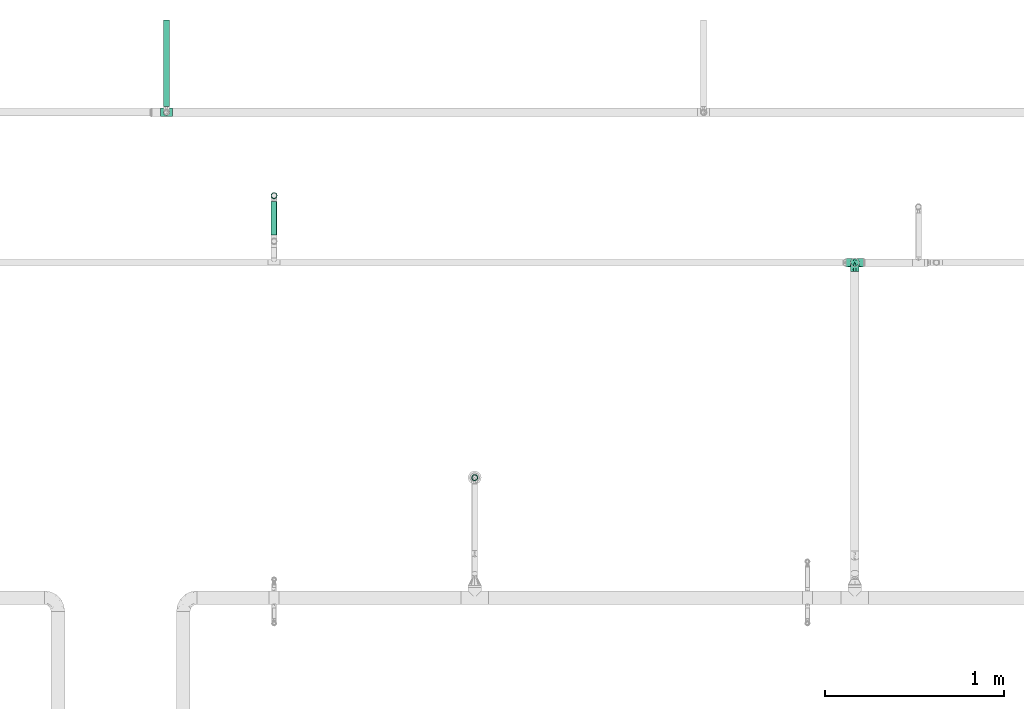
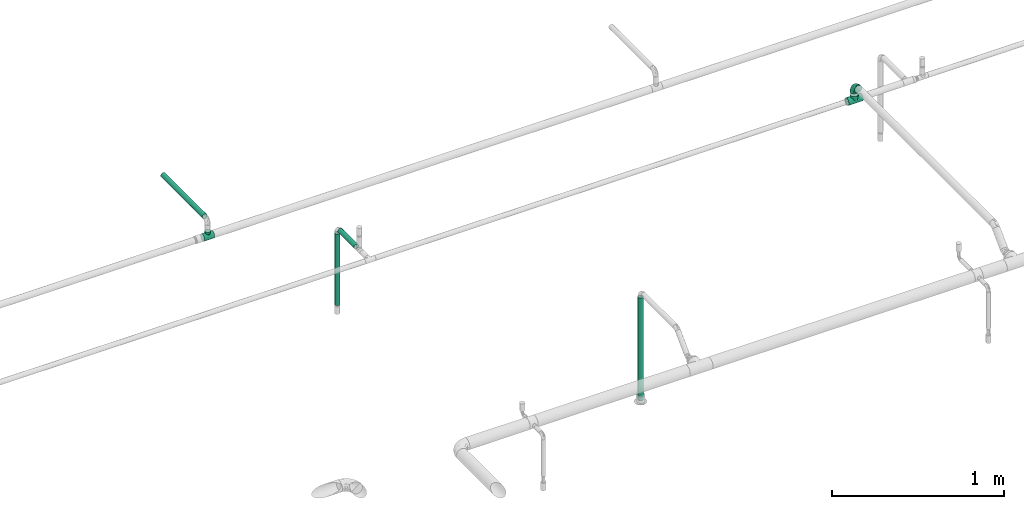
# One storey, part 7 of 51: 4 flow segments, 3 flow fittings.
"""IFC2X3 building model written with IfcOpenShell, lengths in millimetres."""

from ifc_helpers import new_model, entity, si_unit, converted_unit, derived_unit, direction, frame, origin_with_axes, origin_2d_with_axis, place, context, subcontext, project, spatial, hollow_circle, extrude, open_shell, surface_model, source, transform, mapped, type_object, element, save


model = new_model("IFC2X3")

# Units and contexts
model_context = context("Model", 3, precision=0.01, world=frame((0.0, 4.29681676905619e-09, 0.0)), true_north=direction((4.01073788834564e-13, 1.0)))
plan_context = context("Plan", 3, precision=0.01, world=frame((0.0, 4.29681676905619e-09, 0.0)), true_north=direction((4.01073788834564e-13, 1.0)))
body_context = subcontext(model_context, "Body", "Model", "MODEL_VIEW")
ifc_project = project(units=[converted_unit("PLANEANGLEUNIT", "DEGREE", entity("IfcPositiveLengthMeasure", 0.0174532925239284), si_unit("PLANEANGLEUNIT", "RADIAN"), dimensions=[0, 0, 0, 0, 0, 0, 0]), si_unit("AREAUNIT", "SQUARE_METRE"), si_unit("LENGTHUNIT", "METRE", prefix="MILLI"), si_unit("MASSUNIT", "GRAM", prefix="KILO"), si_unit("POWERUNIT", "WATT"), si_unit("PRESSUREUNIT", "PASCAL"), si_unit("FORCEUNIT", "NEWTON", prefix="KILO"), si_unit("ELECTRICVOLTAGEUNIT", "VOLT"), si_unit("ELECTRICCURRENTUNIT", "AMPERE"), si_unit("THERMODYNAMICTEMPERATUREUNIT", "DEGREE_CELSIUS"), si_unit("TIMEUNIT", "SECOND"), si_unit("VOLUMEUNIT", "CUBIC_METRE"), derived_unit("LINEARVELOCITYUNIT", [(si_unit("LENGTHUNIT", "METRE"), 1), (si_unit("TIMEUNIT", "SECOND"), -1)]), derived_unit("VOLUMETRICFLOWRATEUNIT", [(si_unit("VOLUMEUNIT", "CUBIC_METRE"), 1), (si_unit("TIMEUNIT", "SECOND"), -1)]), derived_unit("THERMALTRANSMITTANCEUNIT", [(si_unit("POWERUNIT", "WATT"), 1), (si_unit("THERMODYNAMICTEMPERATUREUNIT", "KELVIN"), -1), (si_unit("AREAUNIT", "SQUARE_METRE"), -1)]), derived_unit("SOUNDPRESSUREUNIT", [(si_unit("PRESSUREUNIT", "PASCAL"), 1)])], contexts=[model_context, plan_context])

# Site, building, storey
site_placement = place(None, frame((0.0, -4.29681676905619e-09, 0.0), z_axis=(0.0, 0.0, 1.0), x_axis=(1.0, 0.0, 0.0)))
site = spatial("IfcSite", under=ifc_project, at=site_placement, Name="ENGM", CompositionType="ELEMENT")
building_placement = place(site_placement, frame((0.0, 4.29681676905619e-09, 0.0), z_axis=(0.0, 0.0, 1.0), x_axis=(1.0, 0.0, 0.0)))
building = spatial("IfcBuilding", under=site, at=building_placement, Name="TH", CompositionType="ELEMENT")
storey_placement = place(building_placement, frame((0.0, 0.0, 210200.0), z_axis=(0.0, 0.0, 1.0), x_axis=(1.0, 0.0, 0.0)))
storey = spatial("IfcBuildingStorey", under=building, at=storey_placement, Name="Nivå F - 0,7 m", CompositionType="ELEMENT", Elevation=210200.0)

# Flow fittings
pipe_fitting_type_1 = type_object("IfcPipeFittingType", Name="magi_pipe_fe_elbow_short_001", PredefinedType="BEND")
shared_shape_1 = source(origin_with_axes(), body_context, "Body", "SurfaceModel", [
    surface_model("IfcShellBasedSurfaceModel", [(-48.4, 6.26342, -23.37541), (-48.4, 0.0, -24.2), (-48.4, 17.11198, -17.11198), (-48.4, 12.1, -20.95781), (-48.4, 23.37541, -6.26342), (-48.4, 20.95781, -12.1), (-48.4, -12.1, -20.95781), (-48.4, -17.11198, -17.11198), (-48.4, -20.95781, -12.1), (-48.4, -6.26342, -23.37541), (-48.4, -23.37541, -6.26342), (-48.4, -24.2, 0.0), (-48.4, -23.37541, 6.26342), (-48.4, 23.37541, 6.26342), (-48.4, 6.26342, 23.37541), (-48.4, 20.95781, 12.1), (-48.4, 17.11198, 17.11198), (-48.4, 12.1, 20.95781), (-48.4, -12.1, 20.95781), (-48.4, -20.95781, 12.1), (-48.4, -17.11198, 17.11198), (-48.4, -6.26342, 23.37541), (-48.4, 0.0, 24.2), (-48.4, 24.2, 0.0), (-17.11198, 48.4, -17.11198), (0.0, 48.4, -24.2), (-6.26342, 48.4, -23.37541), (-12.1, 48.4, -20.95781), (-20.95781, 48.4, -12.1), (-23.37541, 48.4, -6.26342), (12.1, 48.4, -20.95781), (20.95781, 48.4, -12.1), (17.11198, 48.4, -17.11198), (6.26342, 48.4, -23.37541), (23.37541, 48.4, -6.26342), (23.37541, 48.4, 6.26342), (24.2, 48.4, 0.0), (-23.37541, 48.4, 6.26342), (-6.26342, 48.4, 23.37541), (-17.11198, 48.4, 17.11198), (-20.95781, 48.4, 12.1), (-12.1, 48.4, 20.95781), (12.1, 48.4, 20.95781), (17.11198, 48.4, 17.11198), (20.95781, 48.4, 12.1), (0.0, 48.4, 24.2), (6.26342, 48.4, 23.37541), (-24.2, 48.4, 0.0), (-35.50368, -18.80076, 13.58523), (-31.77913, -13.9618, 18.03279), (-34.50859, -21.43683, 0.0), (-21.39243, -15.41147, 12.21413), (-32.16301, -21.12203, 7.54749), (21.12203, 32.16301, 7.54749), (17.07617, 18.95745, 6.20374), (18.67365, 20.61718, 0.0), (-23.65565, 38.62451, 10.51816), (-20.21592, 37.67665, 15.89859), (-35.56981, -9.15108, 21.77256), (-36.96985, -3.20584, 23.78612), (-33.88786, 3.70953, 24.15875), (-8.84062, -10.8048, 0.0), (-18.95745, -17.07617, 6.20374), (-20.61718, -18.67365, 0.0), (-18.69715, -5.87343, 20.10488), (-24.09336, -0.21717, 23.45593), (-2.08262, -4.09091, 10.90396), (-0.40561, 0.49936, 14.45569), (-8.22634, -5.79523, 14.90978), (-37.83027, 20.17367, 15.88169), (-8.41063, 23.79825, 24.15658), (-17.92529, 17.92529, 23.61199), (-14.40991, 10.5752, 24.07534), (-41.86919, 14.6551, 19.71874), (-9.03342, 41.7434, 22.66763), (-3.31671, 36.19978, 24.14056), (-38.63654, 23.65174, 10.51655), (-38.25939, 25.77657, 5.32075), (-30.0475, 30.0475, 9.04616), (-37.30448, 9.49113, 22.86036), (-6.31688, 16.20853, 23.76192), (-12.02449, 4.43954, 22.59792), (-2.47225, 13.07459, 22.23951), (-4.32281, 4.32281, 19.78555), (13.9618, 31.77913, 18.03279), (15.41147, 21.39243, 12.21413), (18.80076, 35.50367, 13.58523), (-25.72741, 16.42033, 22.38358), (-26.59277, 10.36599, 23.76692), (3.20584, 36.96985, 23.78612), (9.15107, 35.56981, 21.77256), (5.87343, 18.69715, 20.10488), (21.43683, 34.50859, 0.0), (-23.74657, 5.93004, 24.18967), (-22.40302, 25.55556, 19.88516), (-33.3245, 16.42738, 20.3789), (-25.47357, 39.04012, 5.19167), (-30.32947, 31.74105, 4.25904), (11.04589, 19.60124, 16.55181), (-27.44219, 36.3, 0.0), (-10.46605, 32.79159, 23.04712), (-13.80953, 25.05111, 23.26361), (-17.54489, 31.27863, 20.33941), (-19.27982, 23.42922, 22.01925), (-14.78447, 40.57947, 19.81913), (-19.60124, -11.04589, 16.55181), (-25.09785, 32.07921, 13.69695), (-25.5093, 27.02629, 17.14196), (-31.08127, 26.00324, 13.49448), (0.21717, 24.09336, 23.45593), (5.51075, 8.40547, 15.32867), (-11.48597, -10.80284, 11.35932), (1.43689, -3.14326, 6.54995), (7.34882, 4.31024, 8.4514), (7.50574, 2.51208, 3.62663), (12.46453, 10.09451, 5.71609), (12.1504, 12.55391, 10.15678), (-36.3, 27.44219, 0.0), (-6.52237, -9.62364, 7.02633), (2.93595, -2.93595, 0.0), (10.8048, 8.84062, 0.0), (-19.60124, -11.04589, -16.55181), (-31.77913, -13.9618, -18.03279), (-18.69715, -5.87343, -20.10488), (-21.39243, -15.41147, -12.21413), (-37.67665, 20.21591, -15.89859), (-40.57947, 14.78447, -19.81913), (-39.04012, 25.47357, -5.19167), (-32.16301, -21.12203, -7.54749), (-30.0475, 30.0475, -9.04616), (-38.62452, 23.65565, -10.51816), (-18.95745, -17.07617, -6.20374), (-23.42922, 19.27982, -22.01926), (-25.05111, 13.80953, -23.26361), (-31.27863, 17.54489, -20.33941), (-14.6551, 41.86919, -19.71874), (-20.17367, 37.83026, -15.88169), (9.15108, 35.56981, -21.77256), (5.87343, 18.69715, -20.10488), (0.21717, 24.09336, -23.45593), (-41.7434, 9.03342, -22.66763), (-35.50368, -18.80076, -13.58523), (-35.56981, -9.15108, -21.77256), (-16.42033, 25.72741, -22.38358), (-9.49113, 37.30447, -22.86036), (-10.36599, 26.59277, -23.76692), (-36.96985, -3.20584, -23.78612), (-23.79826, 8.41063, -24.15658), (-17.92529, 17.92529, -23.61199), (-10.5752, 14.40991, -24.07534), (-36.19978, 3.31671, -24.14056), (-25.77657, 38.25939, -5.32075), (-23.65174, 38.63654, -10.51655), (-32.79159, 10.46605, -23.04712), (-31.74105, 30.32946, -4.25904), (-5.93004, 23.74657, -24.18967), (-25.55556, 22.40302, -19.88516), (-16.42738, 33.3245, -20.3789), (3.20584, 36.96985, -23.78612), (-3.70953, 33.88785, -24.15875), (18.80076, 35.50367, -13.58523), (13.9618, 31.77913, -18.03279), (7.50574, 2.51208, -3.62663), (12.46453, 10.09451, -5.71609), (-16.20853, 6.31688, -23.76192), (-4.43954, 12.02449, -22.59792), (-13.07459, 2.47225, -22.23951), (1.43689, -3.14326, -6.54995), (-6.52237, -9.62364, -7.02632), (-2.08262, -4.09091, -10.90396), (15.41147, 21.39243, -12.21413), (21.12203, 32.16301, -7.54749), (17.07617, 18.95745, -6.20374), (-32.07921, 25.09785, -13.69695), (11.04589, 19.60124, -16.55181), (12.1504, 12.55391, -10.15678), (5.51075, 8.40547, -15.32867), (-27.02629, 25.5093, -17.14196), (-26.00324, 31.08127, -13.49448), (-24.09336, -0.21717, -23.45593), (-4.32281, 4.32281, -19.78555), (-8.22634, -5.79524, -14.90978), (-11.48597, -10.80284, -11.35931), (-0.40561, 0.49936, -14.45569), (7.34882, 4.31024, -8.4514)], [open_shell([[[0, 1, 2]], [[3, 0, 2]], [[4, 5, 2]], [[6, 2, 1]], [[4, 2, 6]], [[7, 8, 6]], [[1, 9, 6]], [[8, 10, 6]], [[6, 10, 4]], [[11, 12, 10]], [[13, 4, 10]], [[14, 13, 10]], [[15, 13, 16]], [[13, 14, 17]], [[16, 13, 17]], [[10, 18, 14]], [[19, 20, 12]], [[20, 10, 12]], [[21, 22, 18]], [[20, 18, 10]], [[18, 22, 14]], [[23, 4, 13]], [[24, 25, 26]], [[24, 26, 27]], [[24, 28, 29]], [[25, 24, 30]], [[30, 24, 29]], [[30, 31, 32]], [[30, 33, 25]], [[30, 34, 31]], [[29, 34, 30]], [[34, 35, 36]], [[34, 29, 37]], [[34, 37, 38]], [[39, 37, 40]], [[41, 38, 37]], [[41, 37, 39]], [[38, 42, 34]], [[35, 43, 44]], [[35, 34, 43]], [[42, 45, 46]], [[34, 42, 43]], [[38, 45, 42]], [[37, 29, 47]], [[20, 48, 49]], [[12, 11, 50]], [[51, 48, 52]], [[53, 54, 55]], [[48, 20, 19]], [[12, 52, 19]], [[40, 56, 57]], [[49, 18, 20]], [[49, 58, 18]], [[22, 59, 60]], [[61, 62, 63]], [[58, 64, 65]], [[66, 67, 68]], [[15, 16, 69]], [[70, 71, 72]], [[17, 73, 16]], [[21, 59, 22]], [[38, 74, 75]], [[22, 60, 14]], [[15, 69, 76]], [[16, 73, 69]], [[23, 13, 77]], [[13, 15, 76]], [[77, 76, 78]], [[14, 79, 17]], [[80, 81, 82]], [[68, 83, 64]], [[84, 43, 42]], [[85, 86, 84]], [[87, 79, 88]], [[18, 58, 21]], [[45, 89, 46]], [[53, 35, 44]], [[45, 38, 75]], [[84, 90, 91]], [[44, 86, 53]], [[92, 35, 53]], [[86, 44, 43]], [[90, 42, 46]], [[53, 55, 92]], [[88, 93, 72]], [[54, 53, 85]], [[87, 94, 95]], [[78, 96, 97]], [[98, 84, 91]], [[99, 96, 47]], [[79, 14, 60]], [[96, 78, 56]], [[62, 52, 63]], [[57, 39, 40]], [[100, 70, 75]], [[101, 102, 103]], [[12, 50, 52]], [[104, 41, 39]], [[74, 38, 41]], [[57, 102, 104]], [[105, 64, 49]], [[90, 84, 42]], [[40, 37, 56]], [[56, 106, 57]], [[102, 57, 107]], [[95, 107, 69]], [[76, 108, 78]], [[100, 101, 70]], [[89, 75, 109]], [[64, 58, 49]], [[63, 52, 50]], [[59, 58, 65]], [[105, 49, 51]], [[64, 83, 81]], [[89, 90, 46]], [[36, 35, 92]], [[109, 82, 91]], [[109, 91, 90]], [[91, 83, 110]], [[111, 68, 105]], [[66, 68, 111]], [[62, 51, 52]], [[66, 112, 113]], [[114, 115, 113]], [[98, 85, 84]], [[52, 48, 19]], [[49, 48, 51]], [[84, 86, 43]], [[53, 86, 85]], [[88, 79, 60]], [[73, 79, 95]], [[96, 56, 37]], [[78, 108, 106]], [[87, 103, 94]], [[100, 74, 104]], [[108, 69, 107]], [[78, 97, 77]], [[88, 72, 71]], [[109, 75, 70]], [[81, 72, 65]], [[70, 72, 80]], [[75, 89, 45]], [[90, 89, 109]], [[58, 59, 21]], [[60, 59, 65]], [[67, 83, 68]], [[110, 113, 116]], [[88, 60, 93]], [[87, 88, 71]], [[103, 87, 71]], [[79, 87, 95]], [[101, 103, 71]], [[94, 103, 102]], [[47, 96, 37]], [[96, 99, 97]], [[99, 117, 97]], [[97, 117, 77]], [[23, 77, 117]], [[13, 76, 77]], [[60, 65, 93]], [[65, 72, 93]], [[70, 101, 71]], [[102, 101, 100]], [[69, 108, 76]], [[106, 108, 107]], [[57, 106, 107]], [[78, 106, 56]], [[57, 104, 39]], [[100, 104, 102]], [[102, 107, 94]], [[95, 94, 107]], [[64, 81, 65]], [[82, 81, 83]], [[91, 82, 83]], [[80, 82, 109]], [[70, 80, 109]], [[81, 80, 72]], [[79, 73, 17]], [[69, 73, 95]], [[104, 74, 41]], [[75, 74, 100]], [[62, 61, 118]], [[111, 62, 118]], [[113, 115, 116]], [[119, 118, 61]], [[111, 105, 51]], [[113, 112, 114]], [[120, 55, 54]], [[68, 64, 105]], [[91, 110, 98]], [[116, 98, 110]], [[62, 111, 51]], [[66, 111, 118]], [[112, 66, 118]], [[67, 113, 110]], [[118, 119, 112]], [[114, 112, 119]], [[119, 120, 114]], [[115, 120, 54]], [[120, 115, 114]], [[116, 54, 85]], [[54, 116, 115]], [[116, 85, 98]], [[113, 67, 66]], [[83, 67, 110]], [[121, 122, 123]], [[122, 121, 124]], [[5, 125, 2]], [[2, 126, 3]], [[117, 127, 23]], [[50, 10, 128]], [[127, 129, 130]], [[128, 131, 63]], [[132, 133, 134]], [[24, 135, 136]], [[137, 138, 139]], [[3, 140, 0]], [[128, 8, 141]], [[142, 6, 9]], [[128, 63, 50]], [[5, 4, 130]], [[8, 7, 141]], [[143, 144, 145]], [[146, 9, 1]], [[147, 148, 149]], [[8, 128, 10]], [[124, 141, 122]], [[150, 1, 0]], [[151, 152, 129]], [[125, 134, 126]], [[153, 147, 150]], [[127, 154, 129]], [[145, 155, 149]], [[47, 29, 151]], [[143, 156, 157]], [[152, 29, 28]], [[25, 158, 159]], [[122, 7, 6]], [[24, 27, 135]], [[144, 27, 26]], [[32, 160, 161]], [[25, 33, 158]], [[120, 162, 163]], [[130, 125, 5]], [[24, 136, 28]], [[0, 140, 150]], [[30, 161, 137]], [[142, 122, 6]], [[25, 159, 26]], [[164, 165, 166]], [[167, 168, 169]], [[31, 160, 32]], [[161, 30, 32]], [[170, 160, 171]], [[131, 128, 124]], [[36, 92, 34]], [[34, 92, 171]], [[172, 171, 55]], [[34, 171, 31]], [[144, 26, 159]], [[130, 173, 125]], [[174, 175, 176]], [[136, 152, 28]], [[30, 137, 33]], [[122, 142, 123]], [[134, 125, 177]], [[157, 177, 136]], [[152, 178, 129]], [[153, 133, 147]], [[146, 150, 179]], [[146, 142, 9]], [[11, 10, 50]], [[179, 166, 123]], [[179, 123, 142]], [[123, 180, 181]], [[138, 137, 161]], [[55, 171, 92]], [[158, 137, 139]], [[174, 161, 170]], [[138, 180, 165]], [[180, 138, 176]], [[124, 121, 182]], [[176, 183, 180]], [[61, 131, 168]], [[169, 168, 182]], [[172, 170, 171]], [[122, 141, 7]], [[128, 141, 124]], [[171, 160, 31]], [[161, 160, 170]], [[145, 144, 159]], [[135, 144, 157]], [[127, 130, 4]], [[129, 178, 173]], [[143, 132, 156]], [[153, 140, 126]], [[178, 136, 177]], [[129, 154, 151]], [[145, 149, 148]], [[179, 150, 147]], [[165, 149, 139]], [[147, 149, 164]], [[150, 146, 1]], [[142, 146, 179]], [[137, 158, 33]], [[159, 158, 139]], [[174, 138, 161]], [[184, 169, 183]], [[145, 159, 155]], [[143, 145, 148]], [[132, 143, 148]], [[144, 143, 157]], [[133, 132, 148]], [[156, 132, 134]], [[23, 127, 4]], [[127, 117, 154]], [[117, 99, 154]], [[154, 99, 151]], [[47, 151, 99]], [[29, 152, 151]], [[159, 139, 155]], [[139, 149, 155]], [[147, 133, 148]], [[134, 133, 153]], [[136, 178, 152]], [[173, 178, 177]], [[125, 173, 177]], [[129, 173, 130]], [[125, 126, 2]], [[153, 126, 134]], [[134, 177, 156]], [[157, 156, 177]], [[138, 165, 139]], [[166, 165, 180]], [[123, 166, 180]], [[164, 166, 179]], [[147, 164, 179]], [[165, 164, 149]], [[144, 135, 27]], [[136, 135, 157]], [[126, 140, 3]], [[150, 140, 153]], [[182, 131, 124]], [[168, 119, 61]], [[119, 167, 162]], [[63, 131, 61]], [[172, 163, 175]], [[172, 55, 120]], [[123, 181, 121]], [[182, 121, 181]], [[175, 174, 170]], [[176, 138, 174]], [[169, 182, 181]], [[131, 182, 168]], [[183, 169, 181]], [[167, 169, 184]], [[162, 167, 184]], [[119, 168, 167]], [[163, 162, 184]], [[120, 119, 162]], [[175, 163, 184]], [[120, 163, 172]], [[176, 175, 184]], [[172, 175, 170]], [[180, 183, 181]], [[184, 183, 176]]])]),
])
flow_fitting_1_placement = place(storey_placement, frame((903344.15403, 486201.02538, 3053.0), z_axis=(1.0, 0.0, 0.0), x_axis=(0.0, 0.0, 1.0)))
element("IfcFlowFitting", 1, at=flow_fitting_1_placement, inside=storey, type_object=pipe_fitting_type_1, Name="magi_pipe_fe_elbow_short_001", context=body_context, shape_type="MappedRepresentation", body=[
    mapped(shared_shape_1, transform((0.0, 0.0, 0.0), scale=1.0)),
])
pipe_fitting_type_2 = type_object("IfcPipeFittingType", Name="magi_pipe_fe_tee_centric_90_NOR", PredefinedType="JUNCTION")
shared_shape_2 = source(origin_with_axes(), body_context, "Body", "SurfaceModel", [
    surface_model("IfcShellBasedSurfaceModel", [(-33.8, 0.0, -24.2), (-33.8, -6.26342, -23.37541), (-33.8, 6.26342, -23.37541), (-33.8, 12.1, -20.95781), (-33.8, 17.11198, -17.11198), (-33.8, 20.95781, -12.1), (-33.8, -23.37541, -6.26342), (-33.8, 23.37541, -6.26342), (-33.8, -17.11198, -17.11198), (-33.8, -20.95781, -12.1), (-33.8, -12.1, -20.95781), (-33.8, -24.2, 0.0), (-33.8, -23.37541, 6.26342), (-33.8, 20.95781, 12.1), (-33.8, 23.37541, 6.26342), (-33.8, 24.2, 0.0), (-33.8, 12.1, 20.95781), (-33.8, 17.11198, 17.11198), (-33.8, -17.11198, 17.11198), (-33.8, 6.26342, 23.37541), (-33.8, -20.95781, 12.1), (-33.8, -12.1, 20.95781), (-33.8, -6.26342, 23.37541), (-33.8, 0.0, 24.2), (33.8, 6.26342, -23.37541), (33.8, -6.26342, -23.37541), (33.8, 0.0, -24.2), (33.8, 17.11198, -17.11198), (33.8, 12.1, -20.95781), (33.8, -23.37541, -6.26342), (33.8, 20.95781, -12.1), (33.8, 23.37541, -6.26342), (33.8, -17.11198, -17.11198), (33.8, -12.1, -20.95781), (33.8, -20.95781, -12.1), (33.8, -24.2, 0.0), (33.8, 24.2, 0.0), (33.8, 23.37541, 6.26342), (33.8, 20.95781, 12.1), (33.8, -23.37541, 6.26342), (33.8, -17.11198, 17.11198), (33.8, 12.1, 20.95781), (33.8, 17.11198, 17.11198), (33.8, 6.26342, 23.37541), (33.8, -20.95781, 12.1), (33.8, -12.1, 20.95781), (33.8, 0.0, 24.2), (33.8, -6.26342, 23.37541), (15.81824, -23.45734, 5.94922), (16.9, -24.2, 0.0), (12.87025, -21.57947, 10.95293), (33.8, -19.0349, 14.60599), (8.52813, -19.30697, 14.59044), (3.03527, -17.5853, 16.6252), (-3.04044, -17.58619, 16.62425), (-8.52961, -19.30762, 14.58958), (-33.8, -19.0349, 14.60599), (-16.9, -24.2, 0.0), (-15.81885, -23.45775, 5.9476), (-12.87368, -21.58151, 10.9489), (3.03527, -17.5853, -16.6252), (33.8, -19.0349, -14.60599), (8.52813, -19.30697, -14.59044), (-8.52961, -19.30762, -14.58958), (-33.8, -19.0349, -14.60599), (12.87025, -21.57947, -10.95293), (-3.04044, -17.58619, -16.62425), (15.81824, -23.45734, -5.94922), (-12.87368, -21.58151, -10.9489), (-15.81885, -23.45775, -5.9476), (4.37404, -36.3, -16.32415), (-16.9, -36.3, 0.0), (0.0, -36.3, -16.9), (14.63583, -36.3, -8.45), (8.45, -36.3, -14.63583), (16.32415, -36.3, -4.37404), (11.9501, -36.3, -11.9501), (-11.9501, -36.3, -11.9501), (-8.45, -36.3, -14.63583), (-4.37404, -36.3, -16.32415), (-14.63583, -36.3, -8.45), (-16.32415, -36.3, -4.37404), (16.9, -36.3, 0.0), (8.45, -36.3, 14.63583), (16.32415, -36.3, 4.37404), (14.63583, -36.3, 8.45), (-8.45, -36.3, 14.63583), (11.9501, -36.3, 11.9501), (4.37404, -36.3, 16.32415), (-16.32415, -36.3, 4.37404), (-11.9501, -36.3, 11.9501), (-14.63583, -36.3, 8.45), (0.0, -36.3, 16.9), (-4.37404, -36.3, 16.32415), (-16.35943, -23.82888, 2.9738), (16.35912, -23.82867, 2.97461), (-0.00259, -17.58575, 16.62472), (16.35912, -23.82867, -2.97461), (-0.00259, -17.58575, -16.62472), (-16.35943, -23.82888, -2.9738)], [open_shell([[[0, 1, 2]], [[3, 2, 4]], [[5, 2, 6]], [[4, 2, 5]], [[7, 5, 6]], [[8, 9, 10]], [[1, 10, 9]], [[1, 9, 2]], [[9, 6, 2]], [[6, 11, 7]], [[11, 12, 7]], [[13, 14, 15]], [[13, 15, 12]], [[16, 17, 18]], [[12, 17, 13]], [[19, 16, 18]], [[20, 18, 12]], [[18, 17, 12]], [[21, 22, 18]], [[23, 18, 22]], [[18, 23, 19]], [[7, 12, 15]], [[24, 25, 26]], [[27, 24, 28]], [[29, 24, 30]], [[30, 24, 27]], [[29, 30, 31]], [[25, 32, 33]], [[32, 25, 34]], [[24, 34, 25]], [[24, 29, 34]], [[31, 35, 29]], [[31, 36, 35]], [[36, 37, 38]], [[39, 36, 38]], [[40, 38, 41]], [[41, 38, 42]], [[40, 41, 43]], [[39, 40, 44]], [[39, 38, 40]], [[45, 46, 47]], [[46, 45, 40]], [[43, 46, 40]], [[36, 39, 35]], [[35, 39, 48]], [[48, 49, 35]], [[39, 50, 48]], [[51, 40, 52]], [[52, 50, 44]], [[53, 52, 40]], [[54, 53, 21]], [[44, 50, 39]], [[55, 18, 56]], [[57, 58, 11]], [[12, 11, 58]], [[58, 59, 12]], [[55, 54, 18]], [[55, 20, 59]], [[20, 55, 56]], [[59, 20, 12]], [[18, 54, 21]], [[52, 44, 51]], [[53, 40, 45]], [[23, 47, 46]], [[22, 45, 47]], [[19, 46, 43]], [[38, 37, 14]], [[17, 41, 42]], [[13, 42, 38]], [[43, 41, 16]], [[15, 37, 36]], [[21, 45, 22]], [[22, 47, 23]], [[19, 23, 46]], [[43, 16, 19]], [[16, 41, 17]], [[13, 17, 42]], [[14, 13, 38]], [[37, 15, 14]], [[45, 21, 53]], [[5, 31, 30]], [[7, 36, 31]], [[4, 30, 27]], [[26, 25, 1]], [[2, 28, 24]], [[0, 24, 26]], [[27, 28, 3]], [[10, 25, 33]], [[15, 36, 7]], [[7, 31, 5]], [[4, 5, 30]], [[27, 3, 4]], [[3, 28, 2]], [[0, 2, 24]], [[1, 0, 26]], [[25, 10, 1]], [[33, 60, 10]], [[61, 34, 62]], [[63, 9, 64]], [[62, 60, 32]], [[34, 65, 62]], [[66, 10, 60]], [[29, 35, 67]], [[67, 65, 29]], [[49, 67, 35]], [[29, 65, 34]], [[66, 63, 8]], [[62, 32, 61]], [[64, 8, 63]], [[63, 68, 9]], [[8, 10, 66]], [[68, 69, 6]], [[69, 11, 6]], [[11, 69, 57]], [[68, 6, 9]], [[60, 33, 32]], [[70, 71, 72]], [[73, 70, 74]], [[73, 75, 70]], [[73, 74, 76]], [[71, 70, 75]], [[72, 77, 78]], [[78, 79, 72]], [[80, 71, 81]], [[77, 72, 80]], [[71, 80, 72]], [[75, 82, 71]], [[83, 82, 84]], [[83, 84, 85]], [[86, 71, 83]], [[83, 85, 87]], [[86, 83, 88]], [[89, 90, 91]], [[90, 89, 86]], [[86, 92, 93]], [[89, 71, 86]], [[88, 92, 86]], [[83, 71, 82]], [[89, 94, 71]], [[59, 91, 90]], [[89, 91, 58]], [[90, 86, 55]], [[89, 58, 94]], [[94, 57, 71]], [[58, 91, 59]], [[95, 48, 84]], [[55, 93, 54]], [[55, 59, 90]], [[92, 53, 96]], [[55, 86, 93]], [[53, 92, 88]], [[83, 52, 88]], [[87, 85, 50]], [[87, 52, 83]], [[48, 85, 84]], [[87, 50, 52]], [[52, 53, 88]], [[82, 95, 84]], [[48, 50, 85]], [[95, 82, 49]], [[92, 54, 93]], [[96, 54, 92]], [[75, 97, 82]], [[65, 73, 76]], [[75, 73, 67]], [[76, 74, 62]], [[97, 49, 82]], [[67, 73, 65]], [[62, 70, 60]], [[62, 65, 76]], [[72, 66, 98]], [[62, 74, 70]], [[99, 71, 57]], [[99, 69, 81]], [[75, 67, 97]], [[79, 66, 72]], [[69, 80, 81]], [[77, 80, 68]], [[72, 60, 70]], [[79, 63, 66]], [[63, 79, 78]], [[78, 77, 63]], [[63, 77, 68]], [[68, 80, 69]], [[71, 99, 81]], [[98, 60, 72]]])]),
])
flow_fitting_2_placement = place(storey_placement, frame((899499.91443, 487040.10129, 2819.99995999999), z_axis=(0.0, 1.0, 0.0), x_axis=(1.0, 0.0, 0.0)))
element("IfcFlowFitting", 2, at=flow_fitting_2_placement, inside=storey, type_object=pipe_fitting_type_2, Name="magi_pipe_fe_tee_centric_90_NOR", context=body_context, shape_type="MappedRepresentation", body=[
    mapped(shared_shape_2, transform((0.0, 0.0, 0.0), scale=1.0)),
])
shared_shape_3 = source(origin_with_axes(), body_context, "Body", "SurfaceModel", [
    surface_model("IfcShellBasedSurfaceModel", [(-48.4, 12.1, -20.95781), (-48.4, 6.26342, -23.37541), (-48.4, 17.11198, -17.11198), (-48.4, -20.95781, 12.1), (-48.4, -17.11198, 17.11198), (-48.4, -23.37541, 6.26342), (-48.4, 0.0, -24.2), (-48.4, -6.26342, -23.37541), (-48.4, 20.95781, -12.1), (-48.4, -23.37541, -6.26342), (-48.4, 23.37541, -6.26342), (-48.4, -12.1, -20.95781), (-48.4, -17.11198, -17.11198), (-48.4, -20.95781, -12.1), (-48.4, -24.2, 0.0), (-48.4, 20.95781, 12.1), (-48.4, 23.37541, 6.26342), (-48.4, 24.2, 0.0), (-48.4, 12.1, 20.95781), (-48.4, 17.11198, 17.11198), (-48.4, 6.26342, 23.37541), (-48.4, -12.1, 20.95781), (-48.4, -6.26342, 23.37541), (-48.4, 0.0, 24.2), (48.4, 6.26342, -23.37541), (48.4, -6.26342, -23.37541), (48.4, 0.0, -24.2), (48.4, 17.11198, -17.11198), (48.4, 12.1, -20.95781), (48.4, -23.37541, -6.26342), (48.4, 20.95781, -12.1), (48.4, 23.37541, -6.26342), (48.4, -17.11198, -17.11198), (48.4, -12.1, -20.95781), (48.4, -20.95781, -12.1), (48.4, -24.2, 0.0), (48.4, 24.2, 0.0), (48.4, 23.37541, 6.26342), (48.4, 20.95781, 12.1), (48.4, -23.37541, 6.26342), (48.4, -17.11198, 17.11198), (48.4, 12.1, 20.95781), (48.4, 17.11198, 17.11198), (48.4, 6.26342, 23.37541), (48.4, -20.95781, 12.1), (48.4, -12.1, 20.95781), (48.4, 0.0, 24.2), (48.4, -6.26342, 23.37541), (23.32218, -23.32218, 6.45878), (24.2, -24.2, 0.0), (20.94524, -20.94524, 12.12176), (13.56365, -13.56365, 20.04164), (17.56065, -17.56065, 16.65123), (-24.2, -24.2, 0.0), (-23.32218, -23.32218, 6.45878), (-20.94524, -20.94524, 12.12176), (-17.56065, -17.56065, 16.65123), (-13.56365, -13.56365, 20.04164), (-9.20594, -9.20594, 22.38059), (9.20594, -9.20594, 22.38059), (4.647, -4.647, 23.74964), (0.0, 0.0, 24.2), (-4.647, -4.647, 23.74964), (4.647, -4.647, -23.74964), (0.0, 0.0, -24.2), (-4.647, -4.647, -23.74964), (-9.20594, -9.20594, -22.38059), (9.20594, -9.20594, -22.38059), (13.56365, -13.56365, -20.04164), (17.56065, -17.56065, -16.65123), (20.94524, -20.94524, -12.12176), (23.32218, -23.32218, -6.45878), (-13.56365, -13.56365, -20.04164), (-17.56065, -17.56065, -16.65123), (-23.32218, -23.32218, -6.45878), (-20.94524, -20.94524, -12.12176), (0.0, -36.3, -24.2), (6.26342, -36.3, -23.37541), (12.1, -36.3, -20.95781), (12.1, -36.3, 20.95781), (17.11198, -36.3, -17.11198), (20.95781, -36.3, -12.1), (23.37541, -36.3, -6.26342), (-12.1, -36.3, -20.95781), (-20.95781, -36.3, -12.1), (-17.11198, -36.3, -17.11198), (-6.26342, -36.3, -23.37541), (-23.37541, -36.3, -6.26342), (-24.2, -36.3, 0.0), (24.2, -36.3, 0.0), (23.37541, -36.3, 6.26342), (20.95781, -36.3, 12.1), (-23.37541, -36.3, 6.26342), (17.11198, -36.3, 17.11198), (6.26342, -36.3, 23.37541), (-17.11198, -36.3, 17.11198), (-20.95781, -36.3, 12.1), (-12.1, -36.3, 20.95781), (0.0, -36.3, 24.2), (-6.26342, -36.3, 23.37541)], [open_shell([[[0, 1, 2]], [[3, 4, 5]], [[6, 7, 1]], [[8, 1, 9]], [[2, 1, 8]], [[10, 8, 9]], [[11, 12, 7]], [[13, 7, 12]], [[7, 13, 1]], [[13, 9, 1]], [[9, 14, 10]], [[14, 5, 10]], [[15, 16, 17]], [[15, 17, 5]], [[18, 19, 4]], [[5, 19, 15]], [[20, 18, 4]], [[4, 19, 5]], [[21, 22, 4]], [[23, 4, 22]], [[4, 23, 20]], [[10, 5, 17]], [[24, 25, 26]], [[27, 24, 28]], [[29, 24, 30]], [[30, 24, 27]], [[29, 30, 31]], [[25, 32, 33]], [[32, 25, 34]], [[24, 34, 25]], [[24, 29, 34]], [[31, 35, 29]], [[31, 36, 35]], [[36, 37, 38]], [[39, 36, 38]], [[40, 38, 41]], [[41, 38, 42]], [[40, 41, 43]], [[39, 40, 44]], [[39, 38, 40]], [[45, 46, 47]], [[46, 45, 40]], [[43, 46, 40]], [[36, 39, 35]], [[39, 44, 48]], [[35, 39, 49]], [[49, 39, 48]], [[44, 50, 48]], [[40, 45, 51]], [[50, 44, 52]], [[51, 52, 40]], [[52, 44, 40]], [[53, 54, 5]], [[53, 5, 14]], [[5, 54, 3]], [[54, 55, 3]], [[56, 57, 4]], [[4, 3, 56]], [[4, 57, 21]], [[56, 3, 55]], [[21, 57, 58]], [[51, 45, 59]], [[60, 46, 61]], [[59, 47, 60]], [[47, 59, 45]], [[60, 47, 46]], [[61, 46, 43]], [[38, 37, 16]], [[19, 41, 42]], [[15, 42, 38]], [[43, 41, 18]], [[17, 37, 36]], [[62, 61, 23]], [[62, 22, 58]], [[22, 62, 23]], [[58, 22, 21]], [[61, 20, 23]], [[43, 20, 61]], [[18, 20, 43]], [[18, 41, 19]], [[15, 19, 42]], [[16, 15, 38]], [[37, 17, 16]], [[27, 2, 30]], [[31, 10, 36]], [[31, 30, 8]], [[0, 27, 28]], [[26, 25, 63]], [[26, 64, 24]], [[64, 26, 63]], [[28, 24, 1]], [[64, 1, 24]], [[10, 31, 8]], [[30, 2, 8]], [[2, 27, 0]], [[36, 10, 17]], [[65, 66, 7]], [[6, 1, 64]], [[6, 65, 7]], [[66, 11, 7]], [[1, 0, 28]], [[6, 64, 65]], [[63, 25, 67]], [[33, 32, 68]], [[69, 68, 32]], [[34, 70, 69]], [[69, 32, 34]], [[33, 68, 67]], [[29, 35, 49]], [[29, 71, 34]], [[71, 29, 49]], [[34, 71, 70]], [[72, 11, 66]], [[72, 12, 11]], [[12, 72, 73]], [[12, 73, 13]], [[74, 53, 9]], [[75, 74, 13]], [[74, 9, 13]], [[9, 53, 14]], [[75, 13, 73]], [[33, 67, 25]], [[76, 77, 78]], [[79, 76, 78]], [[80, 81, 82]], [[80, 82, 78]], [[79, 83, 76]], [[83, 84, 85]], [[83, 86, 76]], [[83, 87, 84]], [[87, 83, 88]], [[83, 79, 88]], [[89, 78, 82]], [[89, 90, 91]], [[89, 91, 79]], [[79, 92, 88]], [[79, 91, 93]], [[92, 79, 94]], [[92, 95, 96]], [[92, 94, 95]], [[97, 98, 99]], [[98, 97, 95]], [[94, 98, 95]], [[79, 78, 89]], [[88, 92, 53]], [[54, 53, 92]], [[95, 97, 57]], [[54, 92, 96]], [[95, 56, 96]], [[58, 97, 99]], [[55, 54, 96]], [[56, 55, 96]], [[58, 57, 97]], [[98, 61, 62]], [[58, 99, 62]], [[56, 95, 57]], [[62, 99, 98]], [[60, 98, 94]], [[79, 59, 94]], [[91, 90, 48]], [[52, 93, 91]], [[51, 79, 93]], [[49, 90, 89]], [[59, 60, 94]], [[51, 59, 79]], [[49, 48, 90]], [[50, 52, 91]], [[48, 50, 91]], [[51, 93, 52]], [[98, 60, 61]], [[89, 82, 49]], [[71, 49, 82]], [[69, 81, 80]], [[80, 78, 68]], [[81, 71, 82]], [[67, 78, 77]], [[70, 71, 81]], [[69, 70, 81]], [[67, 68, 78]], [[76, 64, 63]], [[67, 77, 63]], [[69, 80, 68]], [[63, 77, 76]], [[65, 76, 86]], [[83, 66, 86]], [[84, 87, 74]], [[73, 85, 84]], [[72, 83, 85]], [[53, 87, 88]], [[66, 65, 86]], [[72, 66, 83]], [[53, 74, 87]], [[75, 73, 84]], [[74, 75, 84]], [[72, 85, 73]], [[76, 65, 64]]])]),
])
flow_fitting_3_placement = place(storey_placement, frame((903344.15403, 486201.02538, 2949.56988), z_axis=(0.0, -1.0, 0.0), x_axis=(-1.0, 0.0, 0.0)))
element("IfcFlowFitting", 3, at=flow_fitting_3_placement, inside=storey, type_object=pipe_fitting_type_2, Name="magi_pipe_fe_tee_centric_90_NOR", context=body_context, shape_type="MappedRepresentation", body=[
    mapped(shared_shape_3, transform((0.0, 0.0, 0.0), scale=1.0)),
])

# Flow segments
pipe_segment_type = type_object("IfcPipeSegmentType", Name="Stålrør normaltykke", PredefinedType="RIGIDSEGMENT")
shared_shape_4 = source(origin_with_axes(), body_context, "Body", "SweptSolid", [
    extrude(hollow_circle(Radius=16.9, WallThickness=2.0, at=origin_2d_with_axis()), frame((0.0, 0.0, 0.0), z_axis=(1.0, 0.0, 0.0), x_axis=(0.0, 1.0, 0.0)), (0.0, 0.0, 1.0), 482.5),
])
flow_segment_1_placement = place(storey_placement, frame((899499.91443, 487556.35302, 2938.32088000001), z_axis=(0.0, 0.0, 1.0), x_axis=(0.0, -1.0, 0.0)))
element("IfcFlowSegment", 4, at=flow_segment_1_placement, inside=storey, type_object=pipe_segment_type, Name="Stålrør normaltykke", context=body_context, shape_type="MappedRepresentation", body=[
    mapped(shared_shape_4, transform((0.0, 0.0, 0.0), scale=1.0)),
])
shared_shape_5 = source(origin_with_axes(), body_context, "Body", "SweptSolid", [
    extrude(hollow_circle(Radius=16.9, WallThickness=2.0, at=origin_2d_with_axis()), frame((0.0, 0.0, 0.0), z_axis=(1.0, 0.0, 0.0), x_axis=(0.0, 1.0, 0.0)), (0.0, 0.0, 1.0), 729.2),
])
flow_segment_2_placement = place(storey_placement, frame((901220.93402, 485000.0, 2295.82931), z_axis=(1.0, 0.0, 0.0), x_axis=(0.0, 0.0, 1.0)))
element("IfcFlowSegment", 5, at=flow_segment_2_placement, inside=storey, type_object=pipe_segment_type, Name="Stålrør normaltykke", context=body_context, shape_type="MappedRepresentation", body=[
    mapped(shared_shape_5, transform((0.0, 0.0, 0.0), scale=1.0)),
])
shared_shape_6 = source(origin_with_axes(), body_context, "Body", "SweptSolid", [
    extrude(hollow_circle(Radius=16.9, WallThickness=2.0, at=origin_2d_with_axis()), frame((0.0, 0.0, 0.0), z_axis=(1.0, 0.0, 0.0), x_axis=(0.0, 1.0, 0.0)), (0.0, 0.0, 1.0), 506.4),
])
flow_segment_3_placement = place(storey_placement, frame((900100.0, 486575.40642, 2915.76988000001), z_axis=(0.0, -1.0, 0.0), x_axis=(0.0, 0.0, -1.0)))
element("IfcFlowSegment", 6, at=flow_segment_3_placement, inside=storey, type_object=pipe_segment_type, Name="Stålrør normaltykke", context=body_context, shape_type="MappedRepresentation", body=[
    mapped(shared_shape_6, transform((0.0, 0.0, 0.0), scale=1.0)),
])
shared_shape_7 = source(origin_with_axes(), body_context, "Body", "SweptSolid", [
    extrude(hollow_circle(Radius=16.9, WallThickness=2.0, at=origin_2d_with_axis()), frame((0.0, 0.0, 0.0), z_axis=(1.0, 0.0, 0.0), x_axis=(0.0, 1.0, 0.0)), (0.0, 0.0, 1.0), 187.5),
])
flow_segment_4_placement = place(storey_placement, frame((900100.0, 486354.10177, 2949.56988), z_axis=(0.0, 0.0, 1.0), x_axis=(0.0, 1.0, 0.0)))
element("IfcFlowSegment", 7, at=flow_segment_4_placement, inside=storey, type_object=pipe_segment_type, Name="Stålrør normaltykke", context=body_context, shape_type="MappedRepresentation", body=[
    mapped(shared_shape_7, transform((0.0, 0.0, 0.0), scale=1.0)),
])

save(model, "model.ifc")
